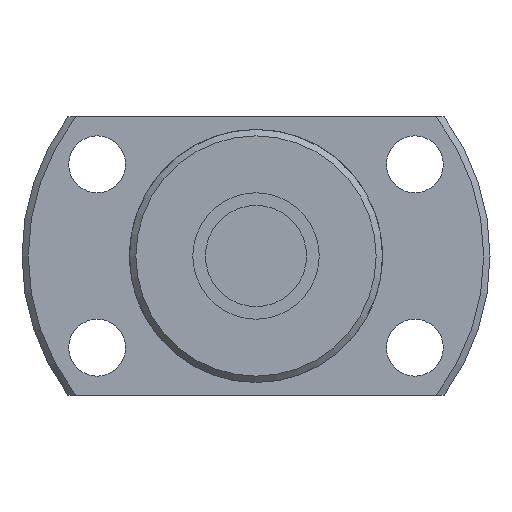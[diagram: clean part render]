
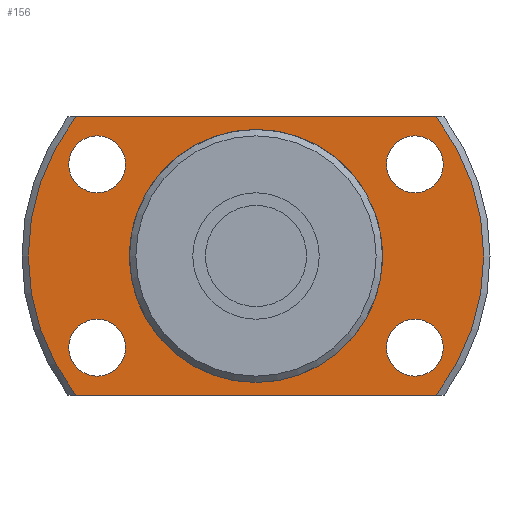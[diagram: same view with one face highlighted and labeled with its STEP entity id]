
A CAD part, left-side view. The second image highlights one B-rep face of the part: STEP entity #156.
In plain terms, the highlighted planar face has unit normal (-1, 0, 0).
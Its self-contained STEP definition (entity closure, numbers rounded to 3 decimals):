
#156 = ADVANCED_FACE( '', ( #330, #331, #332, #333, #334, #335 ), #336, .F. );
#330 = FACE_OUTER_BOUND( '', #548, .T. );
#331 = FACE_BOUND( '', #549, .T. );
#332 = FACE_BOUND( '', #550, .T. );
#333 = FACE_BOUND( '', #551, .T. );
#334 = FACE_BOUND( '', #552, .T. );
#335 = FACE_BOUND( '', #553, .T. );
#336 = PLANE( '', #554 );
#548 = EDGE_LOOP( '', ( #836, #837, #838, #839 ) );
#549 = EDGE_LOOP( '', ( #840 ) );
#550 = EDGE_LOOP( '', ( #841 ) );
#551 = EDGE_LOOP( '', ( #842 ) );
#552 = EDGE_LOOP( '', ( #843 ) );
#553 = EDGE_LOOP( '', ( #844 ) );
#554 = AXIS2_PLACEMENT_3D( '', #845, #846, #847 );
#836 = ORIENTED_EDGE( '', *, *, #1220, .F. );
#837 = ORIENTED_EDGE( '', *, *, #1262, .T. );
#838 = ORIENTED_EDGE( '', *, *, #1263, .F. );
#839 = ORIENTED_EDGE( '', *, *, #1185, .T. );
#840 = ORIENTED_EDGE( '', *, *, #1264, .T. );
#841 = ORIENTED_EDGE( '', *, *, #1265, .T. );
#842 = ORIENTED_EDGE( '', *, *, #1266, .T. );
#843 = ORIENTED_EDGE( '', *, *, #1267, .T. );
#844 = ORIENTED_EDGE( '', *, *, #1254, .T. );
#845 = CARTESIAN_POINT( '', ( 19., 9.85, 0. ) );
#846 = DIRECTION( '', ( 1., 0., 0. ) );
#847 = DIRECTION( '', ( 0., 0., -1. ) );
#1185 = EDGE_CURVE( '', #1371, #1369, #1372, .T. );
#1220 = EDGE_CURVE( '', #1433, #1369, #1434, .T. );
#1254 = EDGE_CURVE( '', #1490, #1490, #1491, .T. );
#1262 = EDGE_CURVE( '', #1433, #1502, #1503, .T. );
#1263 = EDGE_CURVE( '', #1371, #1502, #1504, .T. );
#1264 = EDGE_CURVE( '', #1505, #1505, #1506, .T. );
#1265 = EDGE_CURVE( '', #1507, #1507, #1508, .T. );
#1266 = EDGE_CURVE( '', #1509, #1509, #1510, .T. );
#1267 = EDGE_CURVE( '', #1511, #1511, #1512, .T. );
#1369 = VERTEX_POINT( '', #1644 );
#1371 = VERTEX_POINT( '', #1649 );
#1372 = LINE( '', #1650, #1651 );
#1433 = VERTEX_POINT( '', #1752 );
#1434 = CIRCLE( '', #1753, 18. );
#1490 = VERTEX_POINT( '', #1838 );
#1491 = CIRCLE( '', #1839, 9.85 );
#1502 = VERTEX_POINT( '', #1852 );
#1503 = LINE( '', #1853, #1854 );
#1504 = CIRCLE( '', #1855, 18. );
#1505 = VERTEX_POINT( '', #1856 );
#1506 = CIRCLE( '', #1857, 2.25 );
#1507 = VERTEX_POINT( '', #1858 );
#1508 = CIRCLE( '', #1859, 2.25 );
#1509 = VERTEX_POINT( '', #1860 );
#1510 = CIRCLE( '', #1861, 2.25 );
#1511 = VERTEX_POINT( '', #1862 );
#1512 = CIRCLE( '', #1863, 2.25 );
#1644 = CARTESIAN_POINT( '', ( 19., 14.248, 11. ) );
#1649 = CARTESIAN_POINT( '', ( 19., -14.248, 11. ) );
#1650 = CARTESIAN_POINT( '', ( 19., 9.85, 11. ) );
#1651 = VECTOR( '', #2046, 1000. );
#1752 = CARTESIAN_POINT( '', ( 19., 14.248, -11. ) );
#1753 = AXIS2_PLACEMENT_3D( '', #2088, #2089, #2090 );
#1838 = CARTESIAN_POINT( '', ( 19., 0., -9.85 ) );
#1839 = AXIS2_PLACEMENT_3D( '', #2132, #2133, #2134 );
#1852 = CARTESIAN_POINT( '', ( 19., -14.248, -11. ) );
#1853 = CARTESIAN_POINT( '', ( 19., 9.85, -11. ) );
#1854 = VECTOR( '', #2146, 1000. );
#1855 = AXIS2_PLACEMENT_3D( '', #2147, #2148, #2149 );
#1856 = CARTESIAN_POINT( '', ( 19., -12.557, 5. ) );
#1857 = AXIS2_PLACEMENT_3D( '', #2150, #2151, #2152 );
#1858 = CARTESIAN_POINT( '', ( 19., -12.557, -9.5 ) );
#1859 = AXIS2_PLACEMENT_3D( '', #2153, #2154, #2155 );
#1860 = CARTESIAN_POINT( '', ( 19., 12.557, -9.5 ) );
#1861 = AXIS2_PLACEMENT_3D( '', #2156, #2157, #2158 );
#1862 = CARTESIAN_POINT( '', ( 19., 12.557, 5. ) );
#1863 = AXIS2_PLACEMENT_3D( '', #2159, #2160, #2161 );
#2046 = DIRECTION( '', ( 0., 1., 0. ) );
#2088 = CARTESIAN_POINT( '', ( 19., 0., 0. ) );
#2089 = DIRECTION( '', ( 1., 0., 0. ) );
#2090 = DIRECTION( '', ( 0., 0., -1. ) );
#2132 = CARTESIAN_POINT( '', ( 19., 0., 0. ) );
#2133 = DIRECTION( '', ( 1., 0., 0. ) );
#2134 = DIRECTION( '', ( 0., 0., -1. ) );
#2146 = DIRECTION( '', ( 0., -1., 0. ) );
#2147 = CARTESIAN_POINT( '', ( 19., 0., 0. ) );
#2148 = DIRECTION( '', ( 1., 0., 0. ) );
#2149 = DIRECTION( '', ( 0., 0., -1. ) );
#2150 = CARTESIAN_POINT( '', ( 19., -12.557, 7.25 ) );
#2151 = DIRECTION( '', ( 1., 0., 0. ) );
#2152 = DIRECTION( '', ( 0., 0., -1. ) );
#2153 = CARTESIAN_POINT( '', ( 19., -12.557, -7.25 ) );
#2154 = DIRECTION( '', ( 1., 0., 0. ) );
#2155 = DIRECTION( '', ( 0., 0., -1. ) );
#2156 = CARTESIAN_POINT( '', ( 19., 12.557, -7.25 ) );
#2157 = DIRECTION( '', ( 1., 0., 0. ) );
#2158 = DIRECTION( '', ( 0., 0., -1. ) );
#2159 = CARTESIAN_POINT( '', ( 19., 12.557, 7.25 ) );
#2160 = DIRECTION( '', ( 1., 0., 0. ) );
#2161 = DIRECTION( '', ( 0., 0., -1. ) );
